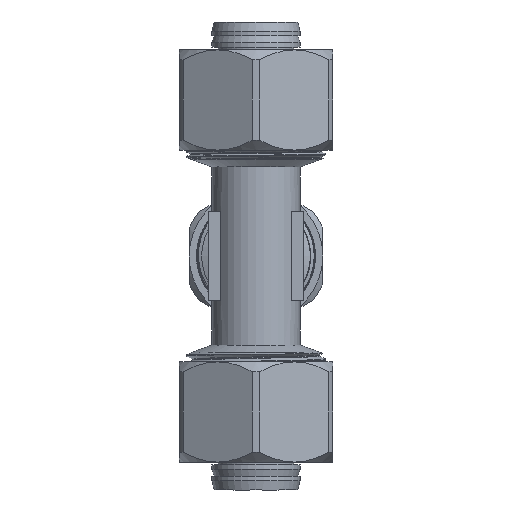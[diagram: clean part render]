
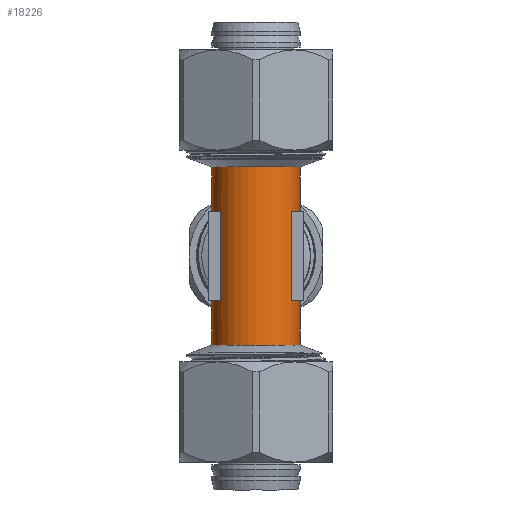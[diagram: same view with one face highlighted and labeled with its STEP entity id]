
A CAD part, front view. The second image highlights one B-rep face of the part: STEP entity #18226.
In plain terms, the highlighted cylindrical face has radius 7.9 mm (diameter 15.8 mm), a full revolution.
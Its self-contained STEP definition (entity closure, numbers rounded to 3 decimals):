
#177=ELLIPSE('',#19446,11.172,7.9);
#178=ELLIPSE('',#19447,11.172,7.9);
#179=ELLIPSE('',#19448,11.172,7.9);
#180=ELLIPSE('',#19449,11.172,7.9);
#2330=CYLINDRICAL_SURFACE('',#19471,7.9);
#2564=FACE_OUTER_BOUND('',#3628,.T.);
#3628=EDGE_LOOP('',(#12709,#12710,#12711,#12712,#12713,#12714,#12715,#12716,
#12717,#12718,#12719,#12720,#12721,#12722,#12723,#12724,#12725,#12726,#12727,
#12728,#12729,#12730,#12731));
#4813=LINE('',#24143,#5963);
#4817=LINE('',#24152,#5967);
#4825=LINE('',#24172,#5975);
#4828=LINE('',#24178,#5978);
#4835=LINE('',#24196,#5985);
#4838=LINE('',#24204,#5988);
#4861=LINE('',#24298,#6011);
#4862=LINE('',#24299,#6012);
#5963=VECTOR('',#20660,10.);
#5967=VECTOR('',#20666,10.);
#5975=VECTOR('',#20684,10.);
#5978=VECTOR('',#20689,10.);
#5985=VECTOR('',#20706,10.);
#5988=VECTOR('',#20713,10.);
#6011=VECTOR('',#20818,7.9);
#6012=VECTOR('',#20819,7.9);
#7024=CIRCLE('',#19375,7.9);
#7025=CIRCLE('',#19376,7.9);
#7032=CIRCLE('',#19420,7.9);
#7033=CIRCLE('',#19422,7.9);
#7034=CIRCLE('',#19426,7.9);
#7035=CIRCLE('',#19428,7.9);
#7038=CIRCLE('',#19434,7.9);
#7039=CIRCLE('',#19436,7.9);
#7053=CIRCLE('',#19472,7.9);
#7498=VERTEX_POINT('',#23795);
#7499=VERTEX_POINT('',#23796);
#7578=VERTEX_POINT('',#24141);
#7579=VERTEX_POINT('',#24142);
#7582=VERTEX_POINT('',#24150);
#7583=VERTEX_POINT('',#24151);
#7586=VERTEX_POINT('',#24159);
#7588=VERTEX_POINT('',#24165);
#7590=VERTEX_POINT('',#24171);
#7592=VERTEX_POINT('',#24177);
#7594=VERTEX_POINT('',#24183);
#7596=VERTEX_POINT('',#24189);
#7598=VERTEX_POINT('',#24195);
#7601=VERTEX_POINT('',#24203);
#7604=VERTEX_POINT('',#24211);
#7607=VERTEX_POINT('',#24219);
#7614=VERTEX_POINT('',#24247);
#7615=VERTEX_POINT('',#24250);
#7631=VERTEX_POINT('',#24296);
#9441=EDGE_CURVE('',#7498,#7499,#7024,.T.);
#9442=EDGE_CURVE('',#7499,#7498,#7025,.T.);
#9560=EDGE_CURVE('',#7578,#7579,#4813,.T.);
#9564=EDGE_CURVE('',#7582,#7583,#4817,.T.);
#9568=EDGE_CURVE('',#7586,#7578,#7032,.T.);
#9571=EDGE_CURVE('',#7583,#7588,#7033,.T.);
#9574=EDGE_CURVE('',#7590,#7586,#4825,.T.);
#9577=EDGE_CURVE('',#7588,#7592,#4828,.T.);
#9580=EDGE_CURVE('',#7594,#7590,#7034,.T.);
#9583=EDGE_CURVE('',#7592,#7596,#7035,.T.);
#9586=EDGE_CURVE('',#7598,#7594,#4835,.T.);
#9590=EDGE_CURVE('',#7596,#7601,#4838,.T.);
#9594=EDGE_CURVE('',#7604,#7582,#7038,.T.);
#9598=EDGE_CURVE('',#7579,#7607,#7039,.T.);
#9613=EDGE_CURVE('',#7607,#7614,#177,.T.);
#9614=EDGE_CURVE('',#7615,#7598,#178,.T.);
#9615=EDGE_CURVE('',#7601,#7615,#179,.T.);
#9616=EDGE_CURVE('',#7614,#7604,#180,.T.);
#9637=EDGE_CURVE('',#7631,#7631,#7053,.T.);
#9638=EDGE_CURVE('',#7631,#7615,#4861,.T.);
#9639=EDGE_CURVE('',#7614,#7499,#4862,.T.);
#12709=ORIENTED_EDGE('',*,*,#9637,.F.);
#12710=ORIENTED_EDGE('',*,*,#9638,.T.);
#12711=ORIENTED_EDGE('',*,*,#9614,.T.);
#12712=ORIENTED_EDGE('',*,*,#9586,.T.);
#12713=ORIENTED_EDGE('',*,*,#9580,.T.);
#12714=ORIENTED_EDGE('',*,*,#9574,.T.);
#12715=ORIENTED_EDGE('',*,*,#9568,.T.);
#12716=ORIENTED_EDGE('',*,*,#9560,.T.);
#12717=ORIENTED_EDGE('',*,*,#9598,.T.);
#12718=ORIENTED_EDGE('',*,*,#9613,.T.);
#12719=ORIENTED_EDGE('',*,*,#9639,.T.);
#12720=ORIENTED_EDGE('',*,*,#9442,.T.);
#12721=ORIENTED_EDGE('',*,*,#9441,.T.);
#12722=ORIENTED_EDGE('',*,*,#9639,.F.);
#12723=ORIENTED_EDGE('',*,*,#9616,.T.);
#12724=ORIENTED_EDGE('',*,*,#9594,.T.);
#12725=ORIENTED_EDGE('',*,*,#9564,.T.);
#12726=ORIENTED_EDGE('',*,*,#9571,.T.);
#12727=ORIENTED_EDGE('',*,*,#9577,.T.);
#12728=ORIENTED_EDGE('',*,*,#9583,.T.);
#12729=ORIENTED_EDGE('',*,*,#9590,.T.);
#12730=ORIENTED_EDGE('',*,*,#9615,.T.);
#12731=ORIENTED_EDGE('',*,*,#9638,.F.);
#18226=ADVANCED_FACE('',(#2564),#2330,.T.);
#19375=AXIS2_PLACEMENT_3D('',#23797,#20479,#20480);
#19376=AXIS2_PLACEMENT_3D('',#23798,#20481,#20482);
#19420=AXIS2_PLACEMENT_3D('',#24160,#20672,#20673);
#19422=AXIS2_PLACEMENT_3D('',#24166,#20678,#20679);
#19426=AXIS2_PLACEMENT_3D('',#24184,#20694,#20695);
#19428=AXIS2_PLACEMENT_3D('',#24190,#20700,#20701);
#19434=AXIS2_PLACEMENT_3D('',#24212,#20720,#20721);
#19436=AXIS2_PLACEMENT_3D('',#24220,#20727,#20728);
#19446=AXIS2_PLACEMENT_3D('',#24249,#20759,#20760);
#19447=AXIS2_PLACEMENT_3D('',#24251,#20761,#20762);
#19448=AXIS2_PLACEMENT_3D('',#24252,#20763,#20764);
#19449=AXIS2_PLACEMENT_3D('',#24253,#20765,#20766);
#19471=AXIS2_PLACEMENT_3D('',#24295,#20814,#20815);
#19472=AXIS2_PLACEMENT_3D('',#24297,#20816,#20817);
#20479=DIRECTION('center_axis',(0.,0.,1.));
#20480=DIRECTION('ref_axis',(1.,0.,0.));
#20481=DIRECTION('center_axis',(0.,0.,1.));
#20482=DIRECTION('ref_axis',(1.,0.,0.));
#20660=DIRECTION('',(0.,0.,1.));
#20666=DIRECTION('',(0.,0.,-1.));
#20672=DIRECTION('center_axis',(0.,0.,-1.));
#20673=DIRECTION('ref_axis',(0.,-1.,0.));
#20678=DIRECTION('center_axis',(0.,0.,-1.));
#20679=DIRECTION('ref_axis',(0.,-1.,0.));
#20684=DIRECTION('',(0.,0.,-1.));
#20689=DIRECTION('',(0.,0.,1.));
#20694=DIRECTION('center_axis',(0.,0.,1.));
#20695=DIRECTION('ref_axis',(0.,-1.,0.));
#20700=DIRECTION('center_axis',(0.,0.,1.));
#20701=DIRECTION('ref_axis',(0.,-1.,0.));
#20706=DIRECTION('',(0.,0.,1.));
#20713=DIRECTION('',(0.,0.,-1.));
#20720=DIRECTION('center_axis',(0.,0.,-1.));
#20721=DIRECTION('ref_axis',(0.,-1.,0.));
#20727=DIRECTION('center_axis',(0.,0.,-1.));
#20728=DIRECTION('ref_axis',(0.,-1.,0.));
#20759=DIRECTION('center_axis',(0.,-0.707,-0.707));
#20760=DIRECTION('ref_axis',(0.,-0.707,0.707));
#20761=DIRECTION('center_axis',(0.,-0.707,0.707));
#20762=DIRECTION('ref_axis',(0.,0.707,0.707));
#20763=DIRECTION('center_axis',(0.,-0.707,0.707));
#20764=DIRECTION('ref_axis',(0.,0.707,0.707));
#20765=DIRECTION('center_axis',(0.,-0.707,-0.707));
#20766=DIRECTION('ref_axis',(0.,-0.707,0.707));
#20814=DIRECTION('center_axis',(0.,0.,1.));
#20815=DIRECTION('ref_axis',(0.,-1.,0.));
#20816=DIRECTION('center_axis',(0.,0.,1.));
#20817=DIRECTION('ref_axis',(1.,0.,0.));
#20818=DIRECTION('',(0.,0.,-1.));
#20819=DIRECTION('',(0.,0.,-1.));
#23795=CARTESIAN_POINT('',(0.,-7.9,-16.));
#23796=CARTESIAN_POINT('',(0.,7.9,-16.));
#23797=CARTESIAN_POINT('Origin',(0.,0.,-16.));
#23798=CARTESIAN_POINT('Origin',(0.,0.,-16.));
#24141=CARTESIAN_POINT('',(-6.323,4.736,-8.022));
#24142=CARTESIAN_POINT('',(-6.323,4.736,-4.772));
#24143=CARTESIAN_POINT('',(-6.323,4.736,-8.));
#24150=CARTESIAN_POINT('',(6.323,4.736,-4.772));
#24151=CARTESIAN_POINT('',(6.323,4.736,-8.022));
#24152=CARTESIAN_POINT('',(6.323,4.736,-8.));
#24159=CARTESIAN_POINT('',(-6.302,-4.764,-8.022));
#24160=CARTESIAN_POINT('Origin',(0.,0.,-8.022));
#24165=CARTESIAN_POINT('',(6.302,-4.764,-8.022));
#24166=CARTESIAN_POINT('Origin',(0.,0.,-8.022));
#24171=CARTESIAN_POINT('',(-6.302,-4.764,7.978));
#24172=CARTESIAN_POINT('',(-6.302,-4.764,-8.));
#24177=CARTESIAN_POINT('',(6.302,-4.764,7.978));
#24178=CARTESIAN_POINT('',(6.302,-4.764,-8.));
#24183=CARTESIAN_POINT('',(-6.323,4.736,7.978));
#24184=CARTESIAN_POINT('Origin',(0.,0.,7.978));
#24189=CARTESIAN_POINT('',(6.323,4.736,7.978));
#24190=CARTESIAN_POINT('Origin',(0.,0.,7.978));
#24195=CARTESIAN_POINT('',(-6.323,4.736,4.736));
#24196=CARTESIAN_POINT('',(-6.323,4.736,-8.));
#24203=CARTESIAN_POINT('',(6.323,4.736,4.736));
#24204=CARTESIAN_POINT('',(6.323,4.736,-8.));
#24211=CARTESIAN_POINT('',(6.296,4.772,-4.772));
#24212=CARTESIAN_POINT('Origin',(0.,0.,-4.772));
#24219=CARTESIAN_POINT('',(-6.296,4.772,-4.772));
#24220=CARTESIAN_POINT('Origin',(0.,0.,-4.772));
#24247=CARTESIAN_POINT('',(0.,7.9,-7.9));
#24249=CARTESIAN_POINT('Origin',(0.,0.,0.));
#24250=CARTESIAN_POINT('',(0.,7.9,7.9));
#24251=CARTESIAN_POINT('Origin',(0.,0.,0.));
#24252=CARTESIAN_POINT('Origin',(0.,0.,0.));
#24253=CARTESIAN_POINT('Origin',(0.,0.,0.));
#24295=CARTESIAN_POINT('Origin',(0.,0.,-8.));
#24296=CARTESIAN_POINT('',(0.,7.9,16.));
#24297=CARTESIAN_POINT('Origin',(0.,0.,16.));
#24298=CARTESIAN_POINT('',(0.,7.9,-8.));
#24299=CARTESIAN_POINT('',(0.,7.9,-8.));
